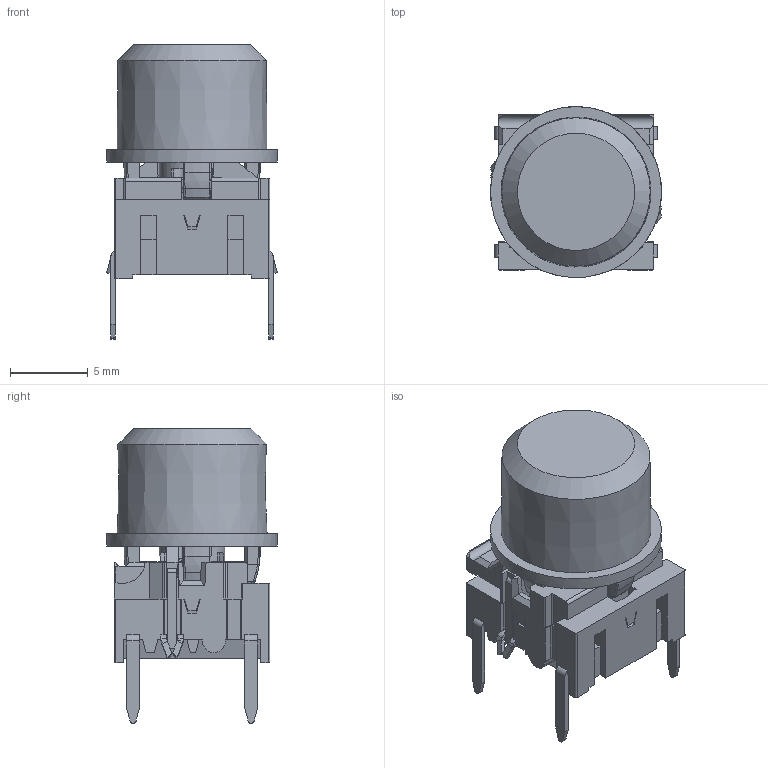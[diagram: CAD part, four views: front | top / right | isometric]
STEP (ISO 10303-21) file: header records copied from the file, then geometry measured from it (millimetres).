
FILE_DESCRIPTION(/* description */ (''),/* implementation_level */ '2;1');
FILE_NAME(/* name */ 'C:\Users\cgh.MEC\Desktop\Traceparts - 3D programserie\STEP filer\il-TH\5GTH9xxxxxxx+1DS.stp',/* time_stamp */ '2016-02-29T06:33:53+01:00',/* author */ ('cgh'),/* organization */ (''),/* preprocessor_version */ 'ST-DEVELOPER v15.2',/* originating_system */ 'Autodesk Inventor 2014',/* authorisation */ '');
FILE_SCHEMA (('AUTOMOTIVE_DESIGN { 1 0 10303 214 3 1 1 }'));
Length unit declared in the file: centimetre
Products named in the file (1): cgh
Bounding box: 10.99 x 10.99 x 18.96 mm (x, y, z)
Volume: 734.8 mm3; surface area: 1652 mm2
Topology: 1 solids, 1 shells, 1302 faces, 3672 edges, 2393 vertices
Faces by surface type: plane 826, cylinder 197, bspline 164, torus 64, cone 46, sphere 5
Full cylindrical faces by diameter (mm): 0.9 x1, 1 x3, 2.8 x1, 4.73 x1, 6.5 x1, 7.44 x1, 11 x1
Entity records: 46278 total; most frequent: CARTESIAN_POINT 12299, ORIENTED_EDGE 7252, DIRECTION 6120, EDGE_CURVE 3626, VERTEX_POINT 2379, LINE 2352, VECTOR 2352, AXIS2_PLACEMENT_3D 1884
